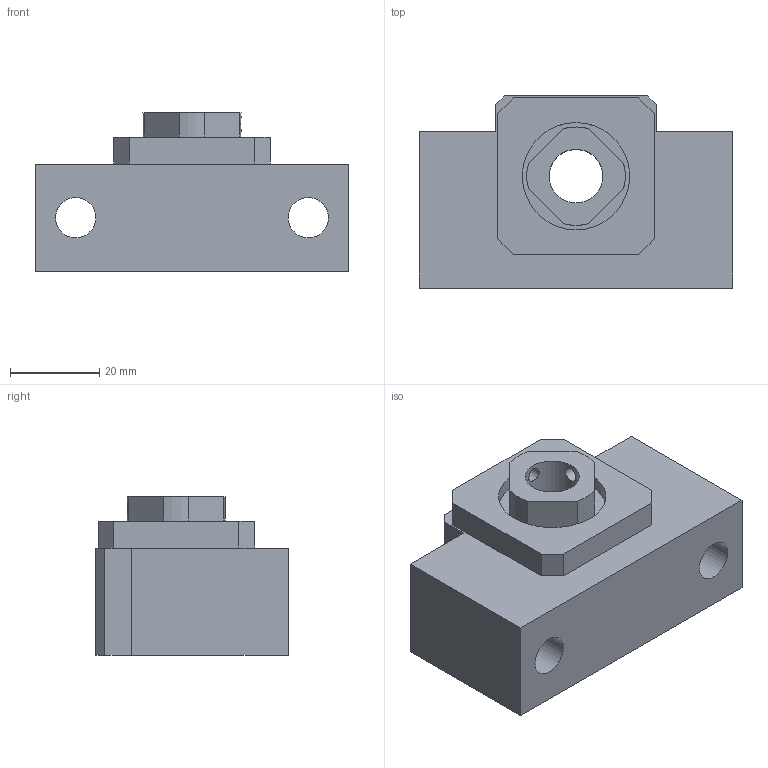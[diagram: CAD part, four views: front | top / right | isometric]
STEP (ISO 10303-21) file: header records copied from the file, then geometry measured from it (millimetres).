
FILE_DESCRIPTION(/* description */ (''),/* implementation_level */ '2;1');
FILE_NAME(/* name */ 'C:\Users\tenki620635\Desktop\官網\圖面\軸承座\3D\setp檔\AK12.stp',/* time_stamp */ '2020-12-18T18:32:22+08:00',/* author */ ('tenki620635'),/* organization */ (''),/* preprocessor_version */ 'ST-DEVELOPER v15.2',/* originating_system */ 'Autodesk Inventor 2014',/* authorisation */ '');
FILE_SCHEMA (('AUTOMOTIVE_DESIGN { 1 0 10303 214 3 1 1 }'));
Length unit declared in the file: millimetre
Products named in the file (1): AK12
Bounding box: 70 x 43 x 35.5 mm (x, y, z)
Volume: 63330.5 mm3; surface area: 16030.5 mm2
Topology: 1 solids, 1 shells, 49 faces, 120 edges, 81 vertices
Faces by surface type: plane 33, cylinder 16
Full cylindrical faces by diameter (mm): 3.242 x2, 9 x2, 12 x1, 14 x2, 15.5 x2, 16 x1, 24 x2
Entity records: 1519 total; most frequent: CARTESIAN_POINT 368, DIRECTION 226, ORIENTED_EDGE 208, EDGE_CURVE 104, EDGE_LOOP 80, VERTEX_POINT 78, AXIS2_PLACEMENT_3D 78, LINE 70
